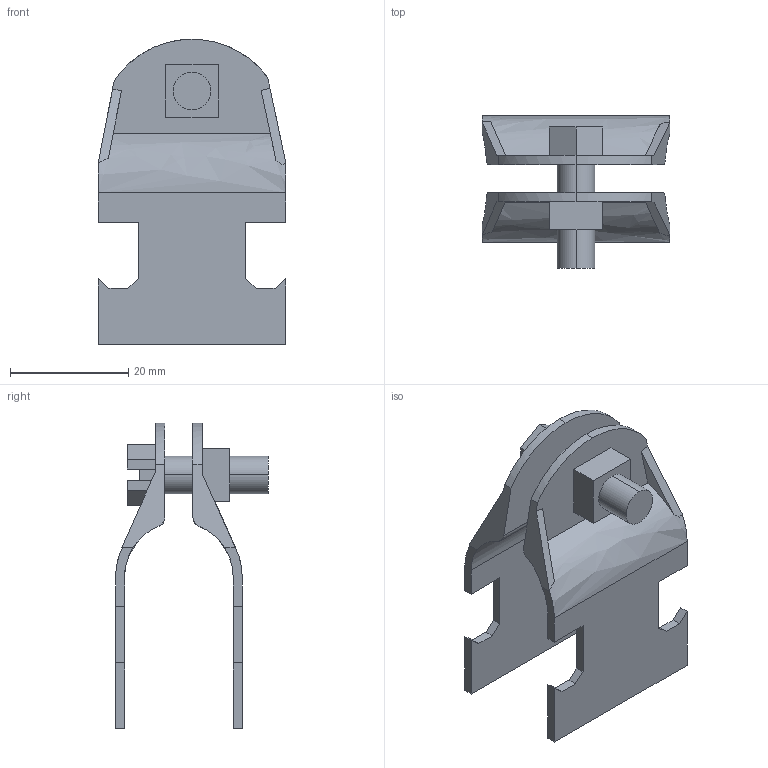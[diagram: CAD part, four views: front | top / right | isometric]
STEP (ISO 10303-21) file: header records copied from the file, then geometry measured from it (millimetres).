
FILE_DESCRIPTION(('TurboCAD Mac Pro'),'Build 980');
FILE_NAME('P1211.stp',' ',(''),(''),'ACIS Interop','IMSI','TurboCAD Mac Pro BY IMSI, INCORPORATED');
FILE_SCHEMA(('automotive_design'));
Length unit declared in the file: inch
Products named in the file (4): 1; 2; 3; 4
Bounding box: 31.75 x 25.83 x 51.6 mm (x, y, z)
Volume: 5666 mm3; surface area: 7548.4 mm2
Topology: 4 solids, 4 shells, 99 faces, 263 edges, 173 vertices
Faces by surface type: plane 81, bspline 18
Entity records: 4102 total; most frequent: CARTESIAN_POINT 909, ORIENTED_EDGE 526, DIRECTION 381, EDGE_CURVE 263, LINE 211, VECTOR 211, VERTEX_POINT 173, STYLED_ITEM 103
